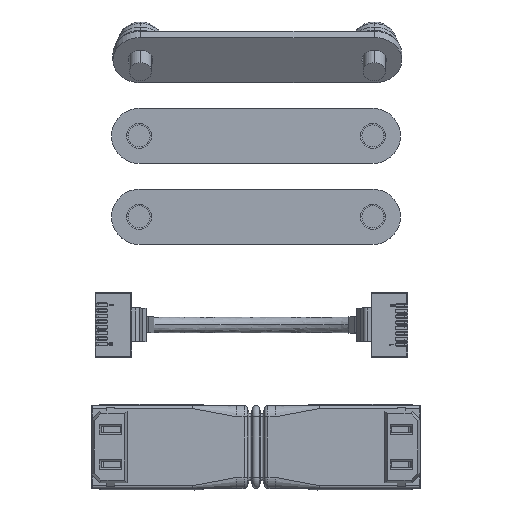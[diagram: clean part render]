
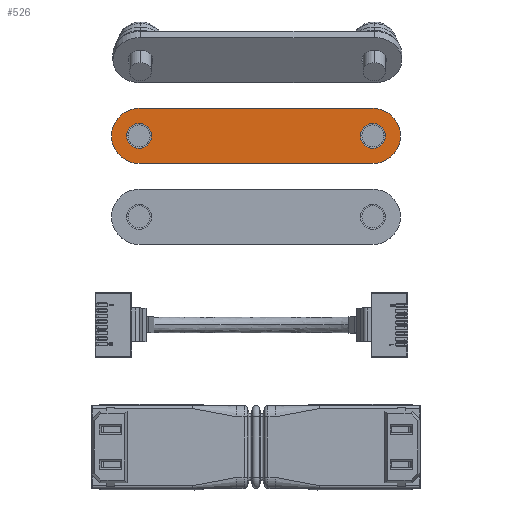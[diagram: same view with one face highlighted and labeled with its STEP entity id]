
A CAD part, top view. The second image highlights one B-rep face of the part: STEP entity #526.
In plain terms, the highlighted planar face has unit normal (0, 0, 1).
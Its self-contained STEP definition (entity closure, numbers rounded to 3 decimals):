
#106=DIRECTION('',(-1.,0.,0.));
#107=VECTOR('',#106,42.4);
#108=CARTESIAN_POINT('',(10.,148.15,-152.36));
#109=LINE('',#108,#107);
#122=DIRECTION('',(1.,0.,0.));
#123=VECTOR('',#122,42.4);
#124=CARTESIAN_POINT('',(-32.4,158.15,-152.36));
#125=LINE('',#124,#123);
#130=CARTESIAN_POINT('',(10.,153.15,-152.36));
#131=DIRECTION('',(0.,0.,1.));
#132=DIRECTION('',(0.,-1.,0.));
#133=AXIS2_PLACEMENT_3D('',#130,#131,#132);
#135=CARTESIAN_POINT('',(-32.4,153.15,-152.36));
#136=DIRECTION('',(0.,0.,1.));
#137=DIRECTION('',(0.,1.,0.));
#138=AXIS2_PLACEMENT_3D('',#135,#136,#137);
#140=CARTESIAN_POINT('',(10.,153.15,-152.36));
#141=DIRECTION('',(0.,0.,-1.));
#142=DIRECTION('',(1.,0.,0.));
#143=AXIS2_PLACEMENT_3D('',#140,#141,#142);
#145=CARTESIAN_POINT('',(10.,153.15,-152.36));
#146=DIRECTION('',(0.,0.,-1.));
#147=DIRECTION('',(-1.,0.,0.));
#148=AXIS2_PLACEMENT_3D('',#145,#146,#147);
#150=CARTESIAN_POINT('',(-32.4,153.15,-152.36));
#151=DIRECTION('',(0.,0.,-1.));
#152=DIRECTION('',(1.,0.,0.));
#153=AXIS2_PLACEMENT_3D('',#150,#151,#152);
#155=CARTESIAN_POINT('',(-32.4,153.15,-152.36));
#156=DIRECTION('',(0.,0.,-1.));
#157=DIRECTION('',(-1.,0.,0.));
#158=AXIS2_PLACEMENT_3D('',#155,#156,#157);
#272=CARTESIAN_POINT('',(-34.65,153.15,-152.36));
#273=VERTEX_POINT('',#272);
#274=CARTESIAN_POINT('',(-30.15,153.15,-152.36));
#275=VERTEX_POINT('',#274);
#276=CARTESIAN_POINT('',(10.,148.15,-152.36));
#277=CARTESIAN_POINT('',(10.,158.15,-152.36));
#278=VERTEX_POINT('',#276);
#279=VERTEX_POINT('',#277);
#280=CARTESIAN_POINT('',(-32.4,148.15,-152.36));
#281=VERTEX_POINT('',#280);
#282=CARTESIAN_POINT('',(-32.4,158.15,-152.36));
#283=VERTEX_POINT('',#282);
#284=CARTESIAN_POINT('',(12.25,153.15,-152.36));
#285=CARTESIAN_POINT('',(7.75,153.15,-152.36));
#286=VERTEX_POINT('',#284);
#287=VERTEX_POINT('',#285);
#503=CARTESIAN_POINT('',(-11.2,153.15,-152.36));
#504=DIRECTION('',(0.,0.,1.));
#505=DIRECTION('',(1.,0.,0.));
#506=AXIS2_PLACEMENT_3D('',#503,#504,#505);
#507=PLANE('',#506);
#508=ORIENTED_EDGE('',*,*,#427,.F.);
#509=ORIENTED_EDGE('',*,*,#448,.T.);
#510=ORIENTED_EDGE('',*,*,#470,.F.);
#511=ORIENTED_EDGE('',*,*,#489,.T.);
#512=EDGE_LOOP('',(#508,#509,#510,#511));
#513=FACE_OUTER_BOUND('',#512,.F.);
#515=ORIENTED_EDGE('',*,*,#514,.F.);
#517=ORIENTED_EDGE('',*,*,#516,.F.);
#518=EDGE_LOOP('',(#515,#517));
#519=FACE_BOUND('',#518,.F.);
#521=ORIENTED_EDGE('',*,*,#520,.F.);
#523=ORIENTED_EDGE('',*,*,#522,.F.);
#524=EDGE_LOOP('',(#521,#523));
#525=FACE_BOUND('',#524,.F.);
#134=CIRCLE('',#133,5.);
#139=CIRCLE('',#138,5.);
#144=CIRCLE('',#143,2.25);
#149=CIRCLE('',#148,2.25);
#154=CIRCLE('',#153,2.25);
#159=CIRCLE('',#158,2.25);
#427=EDGE_CURVE('',#278,#279,#134,.T.);
#448=EDGE_CURVE('',#278,#281,#109,.T.);
#470=EDGE_CURVE('',#283,#281,#139,.T.);
#489=EDGE_CURVE('',#283,#279,#125,.T.);
#514=EDGE_CURVE('',#286,#287,#144,.T.);
#516=EDGE_CURVE('',#287,#286,#149,.T.);
#520=EDGE_CURVE('',#275,#273,#154,.T.);
#522=EDGE_CURVE('',#273,#275,#159,.T.);
#526=ADVANCED_FACE('',(#513,#519,#525),#507,.T.);
